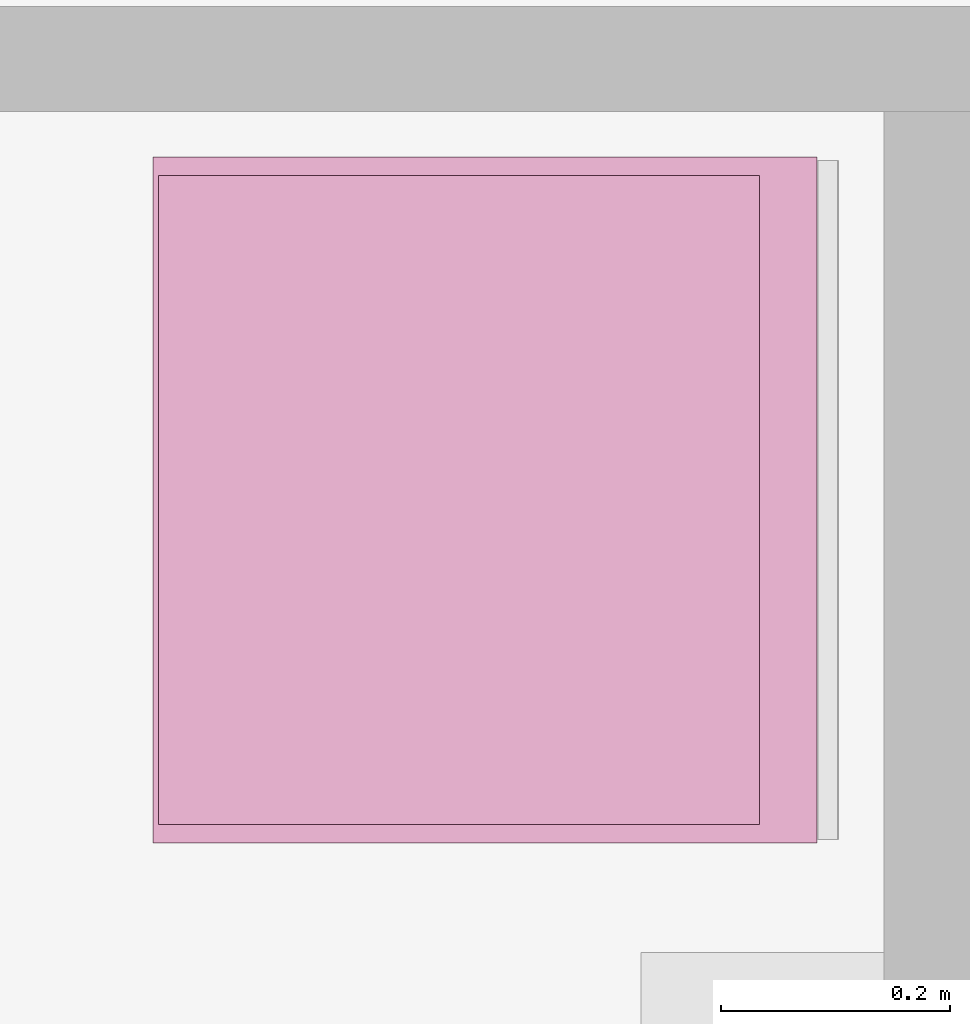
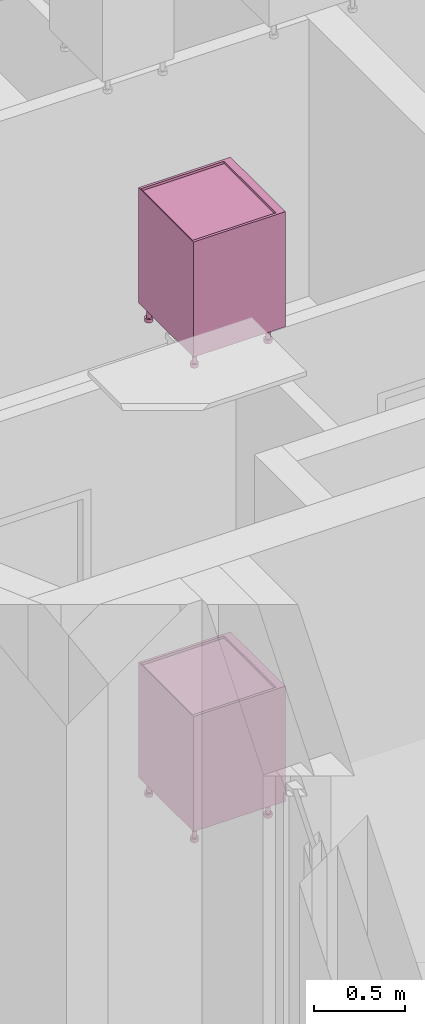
# One storey, part 65 of 125: 2 furnishings.
"""IFC2X3 building model written with IfcOpenShell, lengths in millimetres."""

from ifc_helpers import new_model, entity, si_unit, converted_unit, direction, frame, origin, place, context, subcontext, project, spatial, faceted_brep, source, transform, mapped, material, type_object, type_shapes, element, save


model = new_model("IFC2X3")

# Units and contexts
model_context = context("Model", 3, precision=0.01, world=origin(), true_north=direction((6.123233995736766e-17, 1.0)))
plan_context = context("Plan", 3, precision=0.01, world=origin(), true_north=direction((6.123233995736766e-17, 1.0)))
body_context = subcontext(model_context, "Body", "Model", "MODEL_VIEW")
ifc_project = project(units=[si_unit("LENGTHUNIT", "METRE", prefix="MILLI"), converted_unit("PLANEANGLEUNIT", "DEGREE", entity("IfcPlaneAngleMeasure", 0.017453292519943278), si_unit("PLANEANGLEUNIT", "RADIAN"), dimensions=[0, 0, 0, 0, 0, 0, 0]), si_unit("AREAUNIT", "SQUARE_METRE")], contexts=[model_context, plan_context])

# Site, building, storey, space
site_placement = place(None, origin())
site = spatial("IfcSite", under=ifc_project, at=site_placement, Name="Default", CompositionType="ELEMENT")
building_placement = place(site_placement, origin())
building = spatial("IfcBuilding", under=site, at=building_placement, CompositionType="ELEMENT")
storey_placement = place(building_placement, frame((0.0, 0.0, 3125.0)))
storey = spatial("IfcBuildingStorey", under=building, at=storey_placement, Name="2K", CompositionType="ELEMENT", Elevation=3125.0)
space_placement = place(storey_placement, origin())
space = spatial("IfcSpace", under=storey, at=space_placement, Name="2-1.4", CompositionType="ELEMENT", InteriorOrExteriorSpace="INTERNAL")

# Furnishings
ifc_material = material(Name="<Unnamed>")
furniture_type = type_object("IfcFurnitureType", Name="HR_Casework_Kitchen_Generic_Appliance_v1:Washing Machine", AssemblyPlace="NOTDEFINED", material=ifc_material)
shared_shape = source(origin(), body_context, "Body", "Brep", [
    faceted_brep([(305.7003264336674, -585.7846096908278, -3101.0), (310.6708891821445, -581.9705627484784, -3101.0), (300.70032643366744, -577.1243556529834, -3101.0), (297.32379306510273, -578.5229615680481, -3101.0), (299.91198351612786, -588.1822198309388, -3101.0), (303.59982137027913, -574.8994949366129, -3101.0), (314.4849361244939, -577.0, -3101.0), (305.82468208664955, -572.0, -3101.0), (307.2232880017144, -568.6234666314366, -3101.0), (316.8825462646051, -571.2116570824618, -3101.0), (307.70032643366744, -565.0, -3101.0), (317.7003264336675, -565.0, -3101.0), (307.2232880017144, -561.3765333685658, -3101.0), (316.88254626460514, -558.7883429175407, -3101.0), (305.82468208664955, -558.0, -3101.0), (314.484936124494, -553.0, -3101.0), (303.59982137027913, -555.1005050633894, -3101.0), (310.67088918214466, -548.0294372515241, -3101.0), (300.70032643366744, -552.875644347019, -3101.0), (305.7003264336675, -544.2153903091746, -3101.0), (297.32379306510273, -551.4770384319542, -3101.0), (299.91198351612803, -541.8177801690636, -3101.0), (293.7003264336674, -551.0, -3101.0), (293.70032643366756, -541.0, -3101.0), (290.07685980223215, -551.4770384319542, -3101.0), (287.488669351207, -541.8177801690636, -3101.0), (286.70032643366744, -552.875644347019, -3101.0), (281.7003264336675, -544.2153903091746, -3101.0), (283.80083149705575, -555.1005050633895, -3101.0), (276.7297636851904, -548.029437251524, -3101.0), (281.5759707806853, -558.0, -3101.0), (272.91571674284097, -553.0, -3101.0), (270.51810660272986, -558.7883429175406, -3101.0), (280.1773648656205, -561.3765333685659, -3101.0), (269.7003264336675, -565.0, -3101.0), (279.7003264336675, -565.0, -3101.0), (270.51810660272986, -571.2116570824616, -3101.0), (280.1773648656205, -568.6234666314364, -3101.0), (272.9157167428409, -577.0, -3101.0), (281.57597078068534, -572.0, -3101.0), (276.7297636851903, -581.9705627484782, -3101.0), (283.80083149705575, -574.8994949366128, -3101.0), (281.70032643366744, -585.7846096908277, -3101.0), (286.70032643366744, -577.1243556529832, -3101.0), (287.4886693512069, -588.1822198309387, -3101.0), (290.07685980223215, -578.5229615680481, -3101.0), (293.7003264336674, -589.0, -3101.0), (293.70032643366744, -579.0, -3101.0), (299.91198351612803, -541.8177801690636, -3125.0), (305.7003264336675, -544.2153903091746, -3125.0), (310.67088918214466, -548.0294372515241, -3125.0), (314.484936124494, -553.0, -3125.0), (316.88254626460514, -558.7883429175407, -3125.0), (317.7003264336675, -565.0, -3125.0), (316.8825462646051, -571.2116570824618, -3125.0), (314.4849361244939, -577.0, -3125.0), (310.6708891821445, -581.9705627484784, -3125.0), (305.7003264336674, -585.7846096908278, -3125.0), (299.91198351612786, -588.1822198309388, -3125.0), (293.7003264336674, -589.0, -3125.0), (287.4886693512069, -588.1822198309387, -3125.0), (281.70032643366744, -585.7846096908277, -3125.0), (276.7297636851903, -581.9705627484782, -3125.0), (272.9157167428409, -577.0, -3125.0), (270.51810660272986, -571.2116570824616, -3125.0), (269.7003264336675, -565.0, -3125.0), (270.51810660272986, -558.7883429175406, -3125.0), (272.91571674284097, -553.0, -3125.0), (276.7297636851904, -548.029437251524, -3125.0), (281.7003264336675, -544.2153903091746, -3125.0), (287.488669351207, -541.8177801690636, -3125.0), (293.70032643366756, -541.0, -3125.0), (297.32379306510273, -578.5229615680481, -3025.0), (300.70032643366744, -577.1243556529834, -3025.0), (303.59982137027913, -574.8994949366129, -3025.0), (305.8246820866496, -572.0, -3025.0), (307.2232880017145, -568.6234666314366, -3025.0), (307.70032643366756, -565.0, -3025.0), (307.2232880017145, -561.3765333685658, -3025.0), (305.8246820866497, -558.0, -3025.0), (303.5998213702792, -555.1005050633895, -3025.0), (300.70032643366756, -552.875644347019, -3025.0), (297.32379306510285, -551.4770384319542, -3025.0), (293.70032643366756, -551.0, -3025.0), (290.07685980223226, -551.4770384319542, -3025.0), (286.70032643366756, -552.875644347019, -3025.0), (283.80083149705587, -555.1005050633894, -3025.0), (281.5759707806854, -558.0, -3025.0), (280.1773648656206, -561.3765333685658, -3025.0), (279.70032643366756, -565.0, -3025.0), (280.1773648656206, -568.6234666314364, -3025.0), (281.5759707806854, -572.0, -3025.0), (283.8008314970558, -574.8994949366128, -3025.0), (286.7003264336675, -577.1243556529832, -3025.0), (290.07685980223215, -578.5229615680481, -3025.0), (293.70032643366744, -579.0, -3025.0)], [[[0, 1, 2]], [[0, 2, 3]], [[3, 4, 0]], [[2, 1, 5]], [[6, 5, 1]], [[7, 5, 6]], [[8, 7, 6]], [[8, 6, 9]], [[8, 9, 10]], [[10, 9, 11]], [[12, 10, 11]], [[12, 11, 13]], [[14, 12, 13]], [[14, 13, 15]], [[16, 14, 15]], [[15, 17, 16]], [[17, 18, 16]], [[18, 17, 19]], [[18, 19, 20]], [[21, 20, 19]], [[20, 21, 22]], [[22, 21, 23]], [[23, 24, 22]], [[24, 23, 25]], [[24, 25, 26]], [[27, 26, 25]], [[27, 28, 26]], [[27, 29, 28]], [[30, 28, 29]], [[31, 30, 29]], [[32, 30, 31]], [[33, 30, 32]], [[33, 32, 34]], [[34, 35, 33]], [[36, 35, 34]], [[36, 37, 35]], [[37, 36, 38]], [[39, 37, 38]], [[39, 38, 40]], [[39, 40, 41]], [[40, 42, 41]], [[41, 42, 43]], [[43, 42, 44]], [[44, 45, 43]], [[46, 45, 44]], [[4, 47, 46]], [[45, 46, 47]], [[4, 3, 47]], [[48, 49, 50, 51, 52, 53, 54, 55, 56, 57, 58, 59, 60, 61, 62, 63, 64, 65, 66, 67, 68, 69, 70, 71]], [[64, 36, 34, 65]], [[63, 38, 36, 64]], [[42, 40, 62, 61]], [[63, 62, 40, 38]], [[44, 42, 61, 60]], [[46, 44, 60, 59]], [[58, 4, 46, 59]], [[57, 0, 4, 58]], [[54, 53, 11, 9]], [[1, 0, 57, 56]], [[6, 55, 54, 9]], [[6, 1, 56, 55]], [[52, 13, 11, 53]], [[51, 15, 13, 52]], [[19, 17, 50, 49]], [[51, 50, 17, 15]], [[21, 19, 49, 48]], [[23, 21, 48, 71]], [[27, 69, 68, 29]], [[31, 67, 66, 32]], [[68, 67, 31, 29]], [[32, 66, 65, 34]], [[25, 70, 69, 27]], [[70, 25, 23, 71]], [[72, 73, 74, 75, 76, 77, 78, 79, 80, 81, 82, 83, 84, 85, 86, 87, 88, 89, 90, 91, 92, 93, 94, 95]], [[37, 39, 91, 90]], [[35, 37, 90, 89]], [[43, 45, 94, 93]], [[41, 43, 93, 92]], [[39, 41, 92, 91]], [[47, 95, 94, 45]], [[2, 5, 74, 73]], [[3, 2, 73, 72]], [[8, 10, 77, 76]], [[7, 8, 76, 75]], [[5, 7, 75, 74]], [[3, 72, 95, 47]], [[79, 78, 12, 14]], [[78, 77, 10, 12]], [[80, 16, 18, 81]], [[16, 80, 79, 14]], [[81, 18, 20, 82]], [[22, 83, 82, 20]], [[26, 28, 86, 85]], [[24, 26, 85, 84]], [[33, 35, 89, 88]], [[30, 33, 88, 87]], [[28, 30, 87, 86]], [[24, 84, 83, 22]]]),
    faceted_brep([(-192.29967356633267, -585.7846096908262, -3101.0), (-187.3291108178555, -581.9705627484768, -3101.0), (-197.29967356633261, -577.1243556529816, -3101.0), (-200.67620693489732, -578.5229615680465, -3101.0), (-198.08801648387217, -588.1822198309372, -3101.0), (-194.40017862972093, -574.8994949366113, -3101.0), (-183.51506387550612, -577.0, -3101.0), (-192.17531791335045, -572.0, -3101.0), (-190.77671199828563, -568.6234666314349, -3101.0), (-181.11745373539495, -571.2116570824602, -3101.0), (-190.29967356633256, -565.0, -3101.0), (-180.29967356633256, -565.0, -3101.0), (-190.77671199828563, -561.3765333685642, -3101.0), (-181.11745373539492, -558.788342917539, -3101.0), (-192.17531791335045, -558.0, -3101.0), (-183.515063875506, -553.0, -3101.0), (-194.40017862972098, -555.1005050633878, -3101.0), (-187.3291108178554, -548.0294372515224, -3101.0), (-197.29967356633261, -552.8756443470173, -3101.0), (-192.29967356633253, -544.215390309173, -3101.0), (-200.67620693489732, -551.4770384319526, -3101.0), (-198.08801648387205, -541.8177801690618, -3101.0), (-204.29967356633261, -551.0, -3101.0), (-204.29967356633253, -541.0, -3101.0), (-207.92314019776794, -551.4770384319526, -3101.0), (-210.51133064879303, -541.8177801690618, -3101.0), (-211.29967356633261, -552.8756443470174, -3101.0), (-216.29967356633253, -544.215390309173, -3101.0), (-214.19916850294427, -555.1005050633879, -3101.0), (-221.27023631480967, -548.0294372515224, -3101.0), (-216.42402921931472, -558.0, -3101.0), (-225.08428325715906, -553.0, -3101.0), (-227.48189339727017, -558.788342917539, -3101.0), (-217.8226351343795, -561.3765333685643, -3101.0), (-228.2996735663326, -565.0, -3101.0), (-218.29967356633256, -565.0, -3101.0), (-227.48189339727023, -571.21165708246, -3101.0), (-217.8226351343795, -568.6234666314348, -3101.0), (-225.08428325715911, -577.0, -3101.0), (-216.42402921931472, -572.0, -3101.0), (-221.27023631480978, -581.9705627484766, -3101.0), (-214.19916850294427, -574.8994949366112, -3101.0), (-216.29967356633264, -585.784609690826, -3101.0), (-211.29967356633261, -577.1243556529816, -3101.0), (-210.51133064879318, -588.1822198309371, -3101.0), (-207.9231401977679, -578.5229615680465, -3101.0), (-204.2996735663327, -589.0, -3101.0), (-204.29967356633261, -579.0, -3101.0), (-198.08801648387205, -541.8177801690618, -3125.0), (-192.29967356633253, -544.215390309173, -3125.0), (-187.3291108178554, -548.0294372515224, -3125.0), (-183.515063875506, -553.0, -3125.0), (-181.11745373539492, -558.788342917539, -3125.0), (-180.29967356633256, -565.0, -3125.0), (-181.11745373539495, -571.2116570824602, -3125.0), (-183.51506387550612, -577.0, -3125.0), (-187.3291108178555, -581.9705627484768, -3125.0), (-192.29967356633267, -585.7846096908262, -3125.0), (-198.08801648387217, -588.1822198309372, -3125.0), (-204.2996735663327, -589.0, -3125.0), (-210.51133064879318, -588.1822198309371, -3125.0), (-216.29967356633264, -585.784609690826, -3125.0), (-221.27023631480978, -581.9705627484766, -3125.0), (-225.08428325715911, -577.0, -3125.0), (-227.48189339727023, -571.21165708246, -3125.0), (-228.2996735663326, -565.0, -3125.0), (-227.48189339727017, -558.788342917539, -3125.0), (-225.08428325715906, -553.0, -3125.0), (-221.27023631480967, -548.0294372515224, -3125.0), (-216.29967356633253, -544.215390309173, -3125.0), (-210.51133064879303, -541.8177801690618, -3125.0), (-204.29967356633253, -541.0, -3125.0), (-200.67620693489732, -578.5229615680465, -3025.0), (-197.29967356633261, -577.1243556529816, -3025.0), (-194.40017862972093, -574.8994949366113, -3025.0), (-192.17531791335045, -572.0, -3025.0), (-190.77671199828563, -568.6234666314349, -3025.0), (-190.29967356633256, -565.0, -3025.0), (-190.77671199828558, -561.3765333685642, -3025.0), (-192.1753179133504, -558.0, -3025.0), (-194.40017862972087, -555.1005050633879, -3025.0), (-197.29967356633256, -552.8756443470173, -3025.0), (-200.67620693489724, -551.4770384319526, -3025.0), (-204.29967356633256, -551.0, -3025.0), (-207.92314019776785, -551.4770384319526, -3025.0), (-211.29967356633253, -552.8756443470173, -3025.0), (-214.1991685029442, -555.1005050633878, -3025.0), (-216.4240292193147, -558.0, -3025.0), (-217.8226351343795, -561.3765333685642, -3025.0), (-218.29967356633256, -565.0, -3025.0), (-217.8226351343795, -568.6234666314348, -3025.0), (-216.42402921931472, -572.0, -3025.0), (-214.19916850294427, -574.8994949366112, -3025.0), (-211.2996735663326, -577.1243556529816, -3025.0), (-207.9231401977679, -578.5229615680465, -3025.0), (-204.29967356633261, -579.0, -3025.0)], [[[0, 1, 2]], [[0, 2, 3]], [[3, 4, 0]], [[2, 1, 5]], [[6, 5, 1]], [[7, 5, 6]], [[8, 7, 6]], [[8, 6, 9]], [[8, 9, 10]], [[10, 9, 11]], [[12, 10, 11]], [[12, 11, 13]], [[14, 12, 13]], [[14, 13, 15]], [[16, 14, 15]], [[15, 17, 16]], [[17, 18, 16]], [[18, 17, 19]], [[18, 19, 20]], [[21, 20, 19]], [[20, 21, 22]], [[22, 21, 23]], [[23, 24, 22]], [[24, 23, 25]], [[24, 25, 26]], [[27, 26, 25]], [[27, 28, 26]], [[27, 29, 28]], [[30, 28, 29]], [[31, 30, 29]], [[32, 30, 31]], [[33, 30, 32]], [[33, 32, 34]], [[34, 35, 33]], [[36, 35, 34]], [[36, 37, 35]], [[37, 36, 38]], [[39, 37, 38]], [[39, 38, 40]], [[39, 40, 41]], [[40, 42, 41]], [[41, 42, 43]], [[43, 42, 44]], [[44, 45, 43]], [[46, 45, 44]], [[4, 47, 46]], [[45, 46, 47]], [[4, 3, 47]], [[48, 49, 50, 51, 52, 53, 54, 55, 56, 57, 58, 59, 60, 61, 62, 63, 64, 65, 66, 67, 68, 69, 70, 71]], [[64, 36, 34, 65]], [[63, 38, 36, 64]], [[42, 40, 62, 61]], [[63, 62, 40, 38]], [[44, 42, 61, 60]], [[46, 44, 60, 59]], [[58, 4, 46, 59]], [[57, 0, 4, 58]], [[54, 53, 11, 9]], [[1, 0, 57, 56]], [[6, 55, 54, 9]], [[6, 1, 56, 55]], [[52, 13, 11, 53]], [[51, 15, 13, 52]], [[19, 17, 50, 49]], [[51, 50, 17, 15]], [[21, 19, 49, 48]], [[23, 21, 48, 71]], [[27, 69, 68, 29]], [[31, 67, 66, 32]], [[68, 67, 31, 29]], [[32, 66, 65, 34]], [[25, 70, 69, 27]], [[70, 25, 23, 71]], [[72, 73, 74, 75, 76, 77, 78, 79, 80, 81, 82, 83, 84, 85, 86, 87, 88, 89, 90, 91, 92, 93, 94, 95]], [[37, 39, 91, 90]], [[35, 37, 90, 89]], [[43, 45, 94, 93]], [[41, 43, 93, 92]], [[39, 41, 92, 91]], [[47, 95, 94, 45]], [[2, 5, 74, 73]], [[3, 2, 73, 72]], [[8, 10, 77, 76]], [[7, 8, 76, 75]], [[5, 7, 75, 74]], [[3, 72, 95, 47]], [[79, 78, 12, 14]], [[78, 77, 10, 12]], [[80, 16, 18, 81]], [[16, 80, 79, 14]], [[81, 18, 20, 82]], [[22, 83, 82, 20]], [[26, 28, 86, 85]], [[24, 26, 85, 84]], [[33, 35, 89, 88]], [[30, 33, 88, 87]], [[28, 30, 87, 86]], [[24, 84, 83, 22]]]),
    faceted_brep([(305.70032643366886, -120.78460969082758, -3101.0), (310.670889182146, -116.97056274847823, -3101.0), (300.7003264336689, -112.12435565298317, -3101.0), (297.3237930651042, -113.52296156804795, -3101.0), (299.91198351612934, -123.18221983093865, -3101.0), (303.5998213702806, -109.8994949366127, -3101.0), (314.48493612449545, -112.0, -3101.0), (305.824682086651, -107.0, -3101.0), (307.2232880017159, -103.62346663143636, -3101.0), (316.88254626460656, -106.21165708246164, -3101.0), (307.700326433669, -100.0, -3101.0), (317.700326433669, -100.0, -3101.0), (307.2232880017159, -96.3765333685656, -3101.0), (316.8825462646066, -93.78834291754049, -3101.0), (305.824682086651, -93.0, -3101.0), (314.4849361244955, -88.0, -3101.0), (303.5998213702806, -90.10050506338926, -3101.0), (310.67088918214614, -83.02943725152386, -3101.0), (300.7003264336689, -87.8756443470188, -3101.0), (305.700326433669, -79.21539030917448, -3101.0), (297.3237930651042, -86.477038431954, -3101.0), (299.9119835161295, -76.81778016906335, -3101.0), (293.70032643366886, -86.0, -3101.0), (293.70032643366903, -76.0, -3101.0), (290.0768598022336, -86.47703843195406, -3101.0), (287.4886693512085, -76.81778016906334, -3101.0), (286.7003264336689, -87.87564434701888, -3101.0), (281.700326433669, -79.21539030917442, -3101.0), (283.8008314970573, -90.10050506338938, -3101.0), (276.72976368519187, -83.0294372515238, -3101.0), (281.5759707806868, -93.0, -3101.0), (272.91571674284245, -88.0, -3101.0), (270.51810660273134, -93.78834291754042, -3101.0), (280.177364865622, -96.37653336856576, -3101.0), (269.700326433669, -100.0, -3101.0), (279.700326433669, -100.0, -3101.0), (270.51810660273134, -106.2116570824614, -3101.0), (280.177364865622, -103.62346663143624, -3101.0), (272.9157167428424, -112.0, -3101.0), (281.5759707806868, -107.0, -3101.0), (276.72976368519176, -116.97056274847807, -3101.0), (283.8008314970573, -109.89949493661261, -3101.0), (281.7003264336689, -120.78460969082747, -3101.0), (286.7003264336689, -112.1243556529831, -3101.0), (287.4886693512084, -123.1822198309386, -3101.0), (290.0768598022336, -113.52296156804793, -3101.0), (293.70032643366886, -124.0, -3101.0), (293.7003264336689, -114.0, -3101.0), (299.9119835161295, -76.81778016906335, -3125.0), (305.700326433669, -79.21539030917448, -3125.0), (310.67088918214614, -83.02943725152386, -3125.0), (314.4849361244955, -88.0, -3125.0), (316.8825462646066, -93.78834291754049, -3125.0), (317.700326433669, -100.0, -3125.0), (316.88254626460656, -106.21165708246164, -3125.0), (314.48493612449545, -112.0, -3125.0), (310.670889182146, -116.97056274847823, -3125.0), (305.70032643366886, -120.78460969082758, -3125.0), (299.91198351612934, -123.18221983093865, -3125.0), (293.70032643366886, -124.0, -3125.0), (287.4886693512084, -123.1822198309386, -3125.0), (281.7003264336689, -120.78460969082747, -3125.0), (276.72976368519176, -116.97056274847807, -3125.0), (272.9157167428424, -112.0, -3125.0), (270.51810660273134, -106.2116570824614, -3125.0), (269.700326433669, -100.0, -3125.0), (270.51810660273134, -93.78834291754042, -3125.0), (272.91571674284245, -88.0, -3125.0), (276.72976368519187, -83.0294372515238, -3125.0), (281.700326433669, -79.21539030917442, -3125.0), (287.4886693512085, -76.81778016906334, -3125.0), (293.70032643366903, -76.0, -3125.0), (297.32379306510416, -113.52296156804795, -3025.0), (300.70032643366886, -112.12435565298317, -3025.0), (303.59982137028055, -109.8994949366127, -3025.0), (305.824682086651, -107.0, -3025.0), (307.22328800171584, -103.62346663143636, -3025.0), (307.700326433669, -100.0, -3025.0), (307.2232880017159, -96.3765333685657, -3025.0), (305.82468208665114, -93.0, -3025.0), (303.5998213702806, -90.10050506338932, -3025.0), (300.700326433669, -87.87564434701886, -3025.0), (297.32379306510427, -86.47703843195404, -3025.0), (293.700326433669, -86.0, -3025.0), (290.0768598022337, -86.47703843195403, -3025.0), (286.700326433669, -87.87564434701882, -3025.0), (283.8008314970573, -90.1005050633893, -3025.0), (281.5759707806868, -93.0, -3025.0), (280.177364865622, -96.37653336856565, -3025.0), (279.700326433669, -100.0, -3025.0), (280.177364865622, -103.62346663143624, -3025.0), (281.5759707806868, -107.0, -3025.0), (283.80083149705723, -109.89949493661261, -3025.0), (286.7003264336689, -112.1243556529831, -3025.0), (290.07685980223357, -113.52296156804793, -3025.0), (293.70032643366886, -114.0, -3025.0)], [[[0, 1, 2]], [[0, 2, 3]], [[3, 4, 0]], [[2, 1, 5]], [[6, 5, 1]], [[7, 5, 6]], [[8, 7, 6]], [[8, 6, 9]], [[8, 9, 10]], [[10, 9, 11]], [[12, 10, 11]], [[12, 11, 13]], [[14, 12, 13]], [[14, 13, 15]], [[16, 14, 15]], [[15, 17, 16]], [[17, 18, 16]], [[18, 17, 19]], [[18, 19, 20]], [[21, 20, 19]], [[20, 21, 22]], [[22, 21, 23]], [[23, 24, 22]], [[24, 23, 25]], [[24, 25, 26]], [[27, 26, 25]], [[27, 28, 26]], [[27, 29, 28]], [[30, 28, 29]], [[31, 30, 29]], [[32, 30, 31]], [[33, 30, 32]], [[33, 32, 34]], [[34, 35, 33]], [[36, 35, 34]], [[36, 37, 35]], [[37, 36, 38]], [[39, 37, 38]], [[39, 38, 40]], [[39, 40, 41]], [[40, 42, 41]], [[41, 42, 43]], [[43, 42, 44]], [[44, 45, 43]], [[46, 45, 44]], [[4, 47, 46]], [[45, 46, 47]], [[4, 3, 47]], [[48, 49, 50, 51, 52, 53, 54, 55, 56, 57, 58, 59, 60, 61, 62, 63, 64, 65, 66, 67, 68, 69, 70, 71]], [[64, 36, 34, 65]], [[63, 38, 36, 64]], [[42, 40, 62, 61]], [[63, 62, 40, 38]], [[44, 42, 61, 60]], [[46, 44, 60, 59]], [[58, 4, 46, 59]], [[57, 0, 4, 58]], [[54, 53, 11, 9]], [[1, 0, 57, 56]], [[6, 55, 54, 9]], [[6, 1, 56, 55]], [[52, 13, 11, 53]], [[51, 15, 13, 52]], [[19, 17, 50, 49]], [[51, 50, 17, 15]], [[21, 19, 49, 48]], [[23, 21, 48, 71]], [[27, 69, 68, 29]], [[31, 67, 66, 32]], [[68, 67, 31, 29]], [[32, 66, 65, 34]], [[25, 70, 69, 27]], [[70, 25, 23, 71]], [[72, 73, 74, 75, 76, 77, 78, 79, 80, 81, 82, 83, 84, 85, 86, 87, 88, 89, 90, 91, 92, 93, 94, 95]], [[37, 39, 91, 90]], [[35, 37, 90, 89]], [[43, 45, 94, 93]], [[41, 43, 93, 92]], [[39, 41, 92, 91]], [[47, 95, 94, 45]], [[2, 5, 74, 73]], [[3, 2, 73, 72]], [[8, 10, 77, 76]], [[7, 8, 76, 75]], [[5, 7, 75, 74]], [[3, 72, 95, 47]], [[79, 78, 12, 14]], [[78, 77, 10, 12]], [[80, 16, 18, 81]], [[16, 80, 79, 14]], [[81, 18, 20, 82]], [[22, 83, 82, 20]], [[26, 28, 86, 85]], [[24, 26, 85, 84]], [[33, 35, 89, 88]], [[30, 33, 88, 87]], [[28, 30, 87, 86]], [[24, 84, 83, 22]]]),
    faceted_brep([(-192.299673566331, -120.78460969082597, -3101.0), (-187.3291108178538, -116.97056274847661, -3101.0), (-197.29967356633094, -112.12435565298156, -3101.0), (-200.67620693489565, -113.52296156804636, -3101.0), (-198.0880164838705, -123.18221983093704, -3101.0), (-194.40017862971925, -109.89949493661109, -3101.0), (-183.5150638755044, -112.0, -3101.0), (-192.17531791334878, -107.0, -3101.0), (-190.77671199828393, -103.62346663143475, -3101.0), (-181.11745373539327, -106.21165708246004, -3101.0), (-190.29967356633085, -100.0, -3101.0), (-180.29967356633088, -100.0, -3101.0), (-190.77671199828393, -96.376533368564, -3101.0), (-181.11745373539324, -93.78834291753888, -3101.0), (-192.17531791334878, -93.0, -3101.0), (-183.51506387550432, -88.0, -3101.0), (-194.40017862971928, -90.10050506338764, -3101.0), (-187.32911081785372, -83.02943725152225, -3101.0), (-197.29967356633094, -87.8756443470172, -3101.0), (-192.29967356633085, -79.21539030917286, -3101.0), (-200.67620693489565, -86.4770384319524, -3101.0), (-198.08801648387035, -76.81778016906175, -3101.0), (-204.29967356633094, -86.0, -3101.0), (-204.29967356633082, -76.0, -3101.0), (-207.92314019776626, -86.47703843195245, -3101.0), (-210.51133064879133, -76.81778016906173, -3101.0), (-211.29967356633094, -87.87564434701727, -3101.0), (-216.29967356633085, -79.21539030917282, -3101.0), (-214.19916850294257, -90.10050506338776, -3101.0), (-221.270236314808, -83.0294372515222, -3101.0), (-216.424029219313, -93.0, -3101.0), (-225.08428325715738, -88.0, -3101.0), (-227.4818933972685, -93.78834291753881, -3101.0), (-217.82263513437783, -96.37653336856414, -3101.0), (-228.29967356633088, -100.0, -3101.0), (-218.29967356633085, -100.0, -3101.0), (-227.48189339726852, -106.2116570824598, -3101.0), (-217.82263513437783, -103.62346663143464, -3101.0), (-225.08428325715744, -112.0, -3101.0), (-216.424029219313, -107.0, -3101.0), (-221.27023631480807, -116.97056274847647, -3101.0), (-214.19916850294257, -109.899494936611, -3101.0), (-216.29967356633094, -120.78460969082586, -3101.0), (-211.29967356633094, -112.12435565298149, -3101.0), (-210.51133064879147, -123.18221983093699, -3101.0), (-207.9231401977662, -113.52296156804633, -3101.0), (-204.299673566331, -124.0, -3101.0), (-204.29967356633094, -114.0, -3101.0), (-198.08801648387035, -76.81778016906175, -3125.0), (-192.29967356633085, -79.21539030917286, -3125.0), (-187.32911081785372, -83.02943725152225, -3125.0), (-183.51506387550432, -88.0, -3125.0), (-181.11745373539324, -93.78834291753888, -3125.0), (-180.29967356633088, -100.0, -3125.0), (-181.11745373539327, -106.21165708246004, -3125.0), (-183.5150638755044, -112.0, -3125.0), (-187.3291108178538, -116.97056274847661, -3125.0), (-192.299673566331, -120.78460969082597, -3125.0), (-198.0880164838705, -123.18221983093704, -3125.0), (-204.299673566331, -124.0, -3125.0), (-210.51133064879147, -123.18221983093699, -3125.0), (-216.29967356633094, -120.78460969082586, -3125.0), (-221.27023631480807, -116.97056274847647, -3125.0), (-225.08428325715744, -112.0, -3125.0), (-227.48189339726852, -106.2116570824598, -3125.0), (-228.29967356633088, -100.0, -3125.0), (-227.4818933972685, -93.78834291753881, -3125.0), (-225.08428325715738, -88.0, -3125.0), (-221.270236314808, -83.0294372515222, -3125.0), (-216.29967356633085, -79.21539030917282, -3125.0), (-210.51133064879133, -76.81778016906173, -3125.0), (-204.29967356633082, -76.0, -3125.0), (-200.67620693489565, -113.52296156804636, -3025.0), (-197.29967356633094, -112.12435565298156, -3025.0), (-194.40017862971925, -109.89949493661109, -3025.0), (-192.17531791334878, -107.0, -3025.0), (-190.77671199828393, -103.62346663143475, -3025.0), (-190.29967356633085, -100.0, -3025.0), (-190.7767119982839, -96.3765333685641, -3025.0), (-192.1753179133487, -93.0, -3025.0), (-194.4001786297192, -90.10050506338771, -3025.0), (-197.29967356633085, -87.87564434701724, -3025.0), (-200.67620693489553, -86.47703843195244, -3025.0), (-204.29967356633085, -86.0, -3025.0), (-207.92314019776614, -86.47703843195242, -3025.0), (-211.29967356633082, -87.87564434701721, -3025.0), (-214.1991685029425, -90.10050506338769, -3025.0), (-216.42402921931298, -93.0, -3025.0), (-217.82263513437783, -96.37653336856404, -3025.0), (-218.29967356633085, -100.0, -3025.0), (-217.82263513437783, -103.62346663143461, -3025.0), (-216.424029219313, -107.0, -3025.0), (-214.19916850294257, -109.899494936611, -3025.0), (-211.29967356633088, -112.12435565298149, -3025.0), (-207.9231401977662, -113.52296156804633, -3025.0), (-204.29967356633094, -114.0, -3025.0)], [[[0, 1, 2]], [[0, 2, 3]], [[3, 4, 0]], [[2, 1, 5]], [[6, 5, 1]], [[7, 5, 6]], [[8, 7, 6]], [[8, 6, 9]], [[8, 9, 10]], [[10, 9, 11]], [[12, 10, 11]], [[12, 11, 13]], [[14, 12, 13]], [[14, 13, 15]], [[16, 14, 15]], [[15, 17, 16]], [[17, 18, 16]], [[18, 17, 19]], [[18, 19, 20]], [[21, 20, 19]], [[20, 21, 22]], [[22, 21, 23]], [[23, 24, 22]], [[24, 23, 25]], [[24, 25, 26]], [[27, 26, 25]], [[27, 28, 26]], [[27, 29, 28]], [[30, 28, 29]], [[31, 30, 29]], [[32, 30, 31]], [[33, 30, 32]], [[33, 32, 34]], [[34, 35, 33]], [[36, 35, 34]], [[36, 37, 35]], [[37, 36, 38]], [[39, 37, 38]], [[39, 38, 40]], [[39, 40, 41]], [[40, 42, 41]], [[41, 42, 43]], [[43, 42, 44]], [[44, 45, 43]], [[46, 45, 44]], [[4, 47, 46]], [[45, 46, 47]], [[4, 3, 47]], [[48, 49, 50, 51, 52, 53, 54, 55, 56, 57, 58, 59, 60, 61, 62, 63, 64, 65, 66, 67, 68, 69, 70, 71]], [[64, 36, 34, 65]], [[63, 38, 36, 64]], [[42, 40, 62, 61]], [[63, 62, 40, 38]], [[44, 42, 61, 60]], [[46, 44, 60, 59]], [[58, 4, 46, 59]], [[57, 0, 4, 58]], [[54, 53, 11, 9]], [[1, 0, 57, 56]], [[6, 55, 54, 9]], [[6, 1, 56, 55]], [[52, 13, 11, 53]], [[51, 15, 13, 52]], [[19, 17, 50, 49]], [[51, 50, 17, 15]], [[21, 19, 49, 48]], [[23, 21, 48, 71]], [[27, 69, 68, 29]], [[31, 67, 66, 32]], [[68, 67, 31, 29]], [[32, 66, 65, 34]], [[25, 70, 69, 27]], [[70, 25, 23, 71]], [[72, 73, 74, 75, 76, 77, 78, 79, 80, 81, 82, 83, 84, 85, 86, 87, 88, 89, 90, 91, 92, 93, 94, 95]], [[37, 39, 91, 90]], [[35, 37, 90, 89]], [[43, 45, 94, 93]], [[41, 43, 93, 92]], [[39, 41, 92, 91]], [[47, 95, 94, 45]], [[2, 5, 74, 73]], [[3, 2, 73, 72]], [[8, 10, 77, 76]], [[7, 8, 76, 75]], [[5, 7, 75, 74]], [[3, 72, 95, 47]], [[79, 78, 12, 14]], [[78, 77, 10, 12]], [[80, 16, 18, 81]], [[16, 80, 79, 14]], [[81, 18, 20, 82]], [[22, 83, 82, 20]], [[26, 28, 86, 85]], [[24, 26, 85, 84]], [[33, 35, 89, 88]], [[30, 33, 88, 87]], [[28, 30, 87, 86]], [[24, 84, 83, 22]]]),
    faceted_brep([(328.70032643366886, -19.0, -3009.0), (-239.2996735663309, -19.0, -3009.0), (-239.29967356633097, -595.0, -3009.0), (328.70032643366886, -595.0, -3009.0), (328.70032643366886, -19.0, -3025.0), (328.70032643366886, -595.0, -3025.0), (-239.29967356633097, -595.0, -3025.0), (-239.29967356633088, -19.0, -3025.0)], [[[0, 1, 2, 3]], [[4, 5, 6, 7]], [[1, 0, 4, 7]], [[2, 1, 7, 6]], [[3, 2, 6, 5]], [[0, 3, 5, 4]]]),
    faceted_brep([(-255.29967356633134, -19.0, -2255.0), (-255.2996735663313, -600.0, -2255.0), (344.7003264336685, -600.0, -2255.0), (344.7003264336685, -19.0, -2255.0), (328.70032643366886, -19.0, -2255.0), (328.70032643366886, -595.0, -2255.0), (-239.2996735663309, -595.0, -2255.0), (-239.2996735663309, -19.0, -2255.0), (-255.29967356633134, -19.0, -3025.0), (-239.2996735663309, -19.0, -3025.0), (-239.29967356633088, -595.0, -3025.0), (328.70032643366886, -595.0, -3025.0), (328.70032643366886, -19.0, -3025.0), (344.7003264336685, -19.0, -3025.0), (344.7003264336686, -600.0, -3025.0), (-255.2996735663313, -600.0, -3025.0)], [[[0, 1, 2, 3, 4, 5, 6, 7]], [[8, 9, 10, 11, 12, 13, 14, 15]], [[1, 0, 8, 15]], [[0, 7, 9, 8]], [[7, 6, 10, 9]], [[5, 4, 12, 11]], [[4, 3, 13, 12]], [[3, 2, 14, 13]], [[2, 1, 15, 14]], [[6, 5, 11, 10]]]),
    faceted_brep([(328.70032643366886, -69.0, -2255.0), (328.70032643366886, -19.0, -2255.0), (-239.29967356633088, -19.0, -2255.0), (-239.29967356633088, -69.0, -2255.0), (328.70032643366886, -69.0, -2271.0), (-239.29967356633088, -69.0, -2271.0), (-239.29967356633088, -19.0, -2271.0), (328.70032643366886, -19.0, -2271.0)], [[[0, 1, 2, 3]], [[4, 5, 6, 7]], [[0, 3, 5, 4]], [[3, 2, 6, 5]], [[2, 1, 7, 6]], [[1, 0, 4, 7]]]),
    faceted_brep([(328.7003264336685, -19.0, -2271.0), (-239.29967356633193, -19.0, -2271.0), (-239.2996735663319, -595.0, -2271.0), (328.7003264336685, -595.0, -2271.0), (328.7003264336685, -19.0, -3009.0), (328.7003264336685, -595.0, -3009.0), (-239.2996735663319, -595.0, -3009.0), (-239.2996735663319, -19.0, -3009.0)], [[[0, 1, 2, 3]], [[4, 5, 6, 7]], [[1, 0, 4, 7]], [[2, 1, 7, 6]], [[3, 2, 6, 5]], [[0, 3, 5, 4]]]),
])
type_shapes(furniture_type, [shared_shape])
for number, where, z_axis, x_axis, name in (
    (1, (1212.9935349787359, 8410.70032643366, 3125.0), (0.0, 0.0, 1.0), (0.0, -1.0, 0.0), "HR_Casework_Kitchen_Generic_Appliance_v1:Washing Machine"),
    (2, (1212.9935349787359, 8410.70032643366, 6295.0), (0.0, 0.0, 1.0), (0.0, -1.0, 0.0), "HR_Casework_Kitchen_Generic_Appliance_v1:Washing Machine"),
):
    element("IfcFurnishingElement", number, at=place(space_placement, frame(where, z_axis=z_axis, x_axis=x_axis)), inside=space, type_object=furniture_type, material=ifc_material, Name=name, ObjectType="HR_Casework_Kitchen_Generic_Appliance_v1:Washing Machine", context=body_context, shape_type="MappedRepresentation", body=[
        mapped(shared_shape, transform((0.0, 0.0, 0.0), scale=1.0)),
    ])

save(model, "model.ifc")
